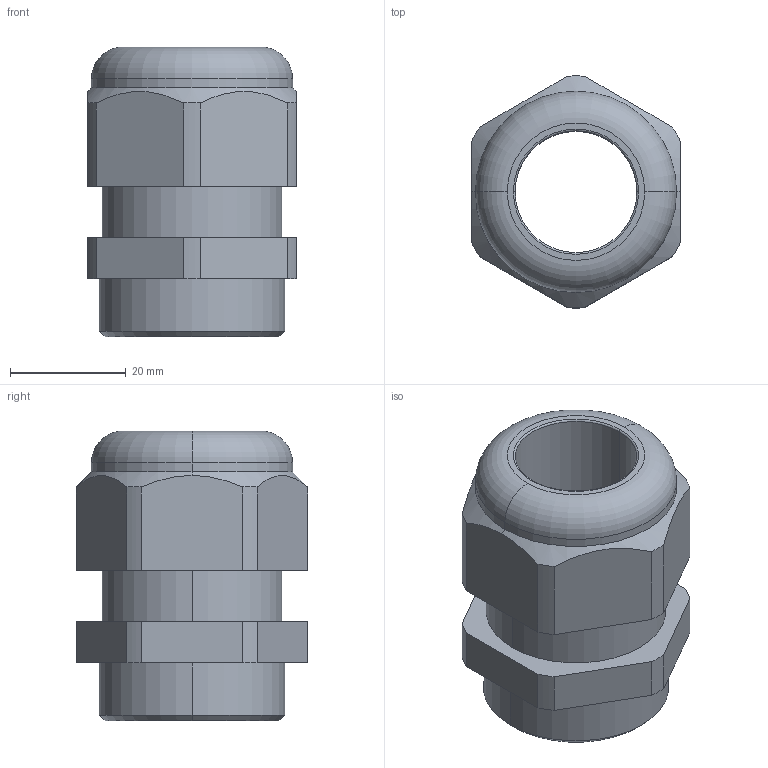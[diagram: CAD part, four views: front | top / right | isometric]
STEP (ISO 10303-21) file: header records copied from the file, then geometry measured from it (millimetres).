
FILE_DESCRIPTION (( 'STEP AP203' ), '1' );
FILE_NAME ('50.632 PASW-EX.STEP', '2006-10-09T09:50:34', ( ' ' ), ( '' ), 'SwSTEP 2.0', 'SolidWorks 2005278', '' );
FILE_SCHEMA (( 'CONFIG_CONTROL_DESIGN' ));
Length unit declared in the file: millimetre
Products named in the file (1): 50.632 PASW-EX
Bounding box: 36 x 39.99 x 50 mm (x, y, z)
Volume: 30080.9 mm3; surface area: 10686.2 mm2
Topology: 1 solids, 1 shells, 82 faces, 214 edges, 140 vertices
Faces by surface type: plane 54, cylinder 20, cone 4, torus 4
Entity records: 2657 total; most frequent: CARTESIAN_POINT 525, ORIENTED_EDGE 428, DIRECTION 422, EDGE_CURVE 214, LINE 156, VECTOR 156, VERTEX_POINT 140, AXIS2_PLACEMENT_3D 133
